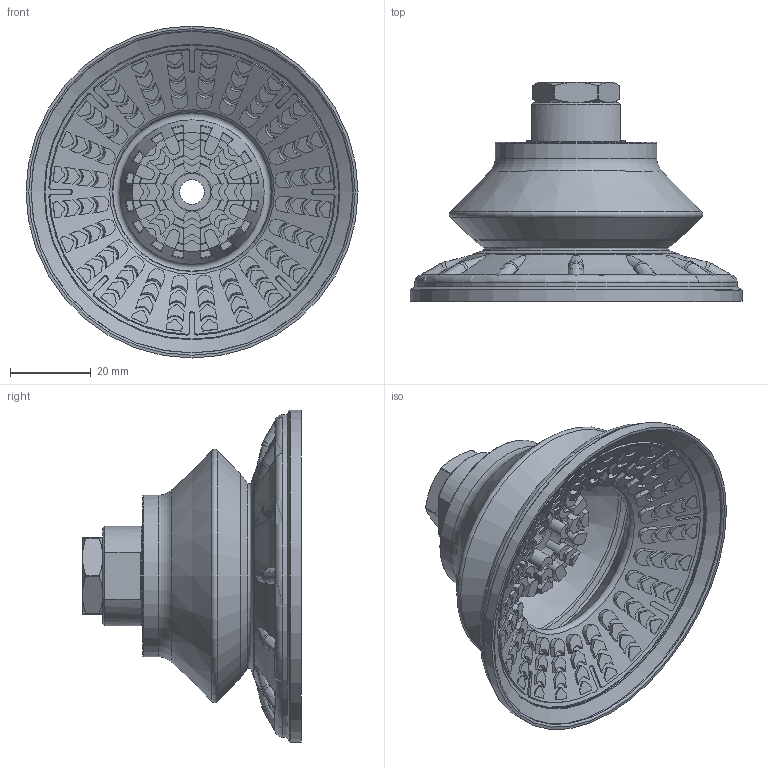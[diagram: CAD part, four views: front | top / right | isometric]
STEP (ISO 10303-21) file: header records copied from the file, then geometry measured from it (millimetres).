
FILE_DESCRIPTION (( 'STEP AP203' ), '1' );
FILE_NAME ('8R 82--F14.STEP', '2022-07-27T06:26:21', ( '' ), ( '' ), 'SwSTEP 2.0', 'SolidWorks 2021', '' );
FILE_SCHEMA (( 'CONFIG_CONTROL_DESIGN' ));
Length unit declared in the file: millimetre
Products named in the file (1): 8R 82--F14
Bounding box: 82.45 x 54.38 x 82.45 mm (x, y, z)
Volume: 43771.1 mm3; surface area: 33524.1 mm2
Topology: 3 solids, 3 shells, 1378 faces, 3783 edges, 2516 vertices
Faces by surface type: plane 863, cylinder 304, torus 96, bspline 61, cone 54
Full cylindrical faces by diameter (mm): 6.1 x1, 9.294 x1, 14.75 x1, 24.8 x1, 30.5 x4, 33.5 x2, 40.125 x1, 73.254 x1, 80.05 x1, 80.09 x1, 82.448 x1
Entity records: 53502 total; most frequent: CARTESIAN_POINT 20675, ORIENTED_EDGE 7410, DIRECTION 5814, EDGE_CURVE 3705, VERTEX_POINT 2502, AXIS2_PLACEMENT_3D 1988, VECTOR 1838, LINE 1838
